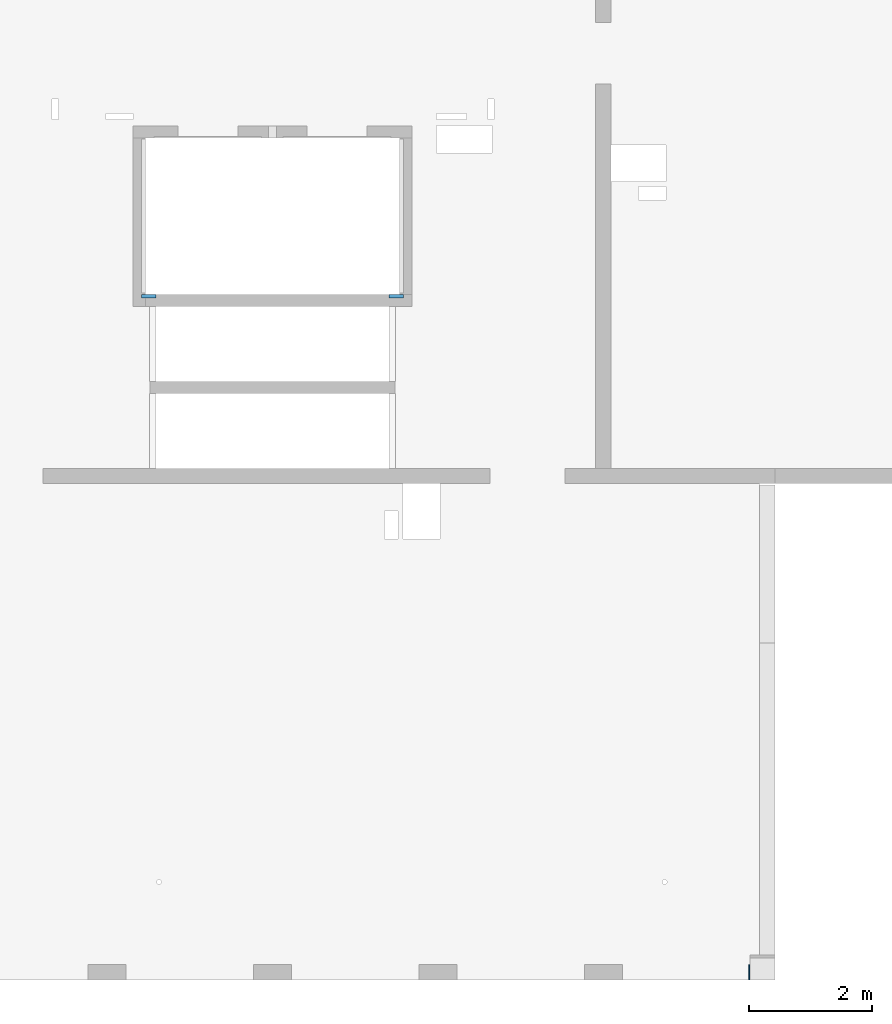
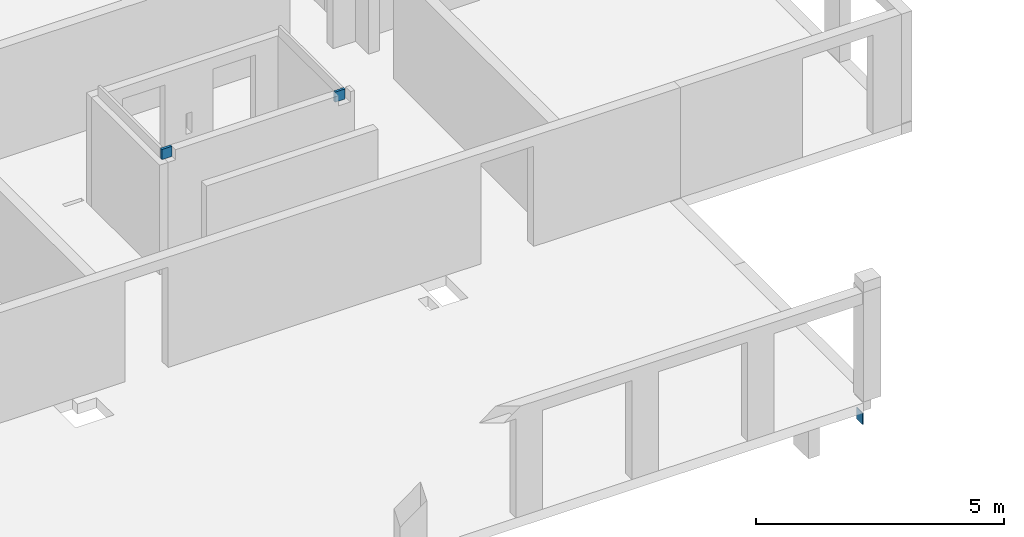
# One storey, part 9 of 12: 3 walls.
"""IFC2X3 building model written with IfcOpenShell, lengths in millimetres."""

import ifcopenshell
import ifcopenshell.guid

model = None  # the IFC model being written
_history = None  # IfcOwnerHistory: only IFC2X3 demands one
_inside = {}  # id of a spatial element -> (the spatial element, [elements in it])
_under = {}  # id of a project, library or spatial element -> (it, [spatial elements below it])
_declared = {}  # id of a project -> (the project, [libraries it declares])
_typed = {}  # id of a type object -> (the type object, [elements of that type])
_made_of = {}  # id of a material, layer set ... -> (it, [elements and type objects made of it])


def new_model(schema):
    """Start an empty IFC model of exactly this schema.

    Asked for "IFC4X3", IfcOpenShell would pick the latest addendum, in which some entities
    have other attributes; the version numbers below select the first issue.
    IFC2X3 requires an IfcOwnerHistory on every rooted entity: one is made here for all.
    """
    global model, _history
    if schema == "IFC4X3":
        model = ifcopenshell.file(schema_version=(4, 3, 0, 0))
    else:
        model = ifcopenshell.file(schema=schema)
    _inside.clear()
    _under.clear()
    _declared.clear()
    _typed.clear()
    _made_of.clear()
    _history = None
    if model.schema == "IFC2X3":
        org = make("IfcOrganization", Name="unknown")
        user = make(
            "IfcPersonAndOrganization",
            ThePerson=make("IfcPerson", FamilyName="unknown"),
            TheOrganization=org,
        )
        app = make(
            "IfcApplication",
            ApplicationDeveloper=org,
            Version="unknown",
            ApplicationFullName="unknown",
            ApplicationIdentifier="unknown",
        )
        _history = make(
            "IfcOwnerHistory",
            OwningUser=user,
            OwningApplication=app,
            ChangeAction="ADDED",
            CreationDate=0,
        )
    return model


def make(cls, **values):
    """One entity of the class cls with the attributes given. An attribute that is None is left unset."""
    return model.create_entity(
        cls, **{name: value for name, value in values.items() if value is not None}
    )


def entity(cls, *values):
    """Any entity or typed value of the class cls, its attributes in the order of the schema. None: left unset."""
    e = model.create_entity(cls)
    for i, value in enumerate(values):
        if value is not None:
            e[i] = value
    return e


def rooted(cls, **values):
    """An entity with a GlobalId (a new one), such as an element, a storey or a relation."""
    return make(cls, GlobalId=ifcopenshell.guid.new(), OwnerHistory=_history, **values)


def si_unit(unit_type, name, prefix=None):
    """IfcSIUnit, for example si_unit("LENGTHUNIT", "METRE", prefix="MILLI")."""
    return make("IfcSIUnit", UnitType=unit_type, Prefix=prefix, Name=name)


def converted_unit(unit_type, name, factor, base, dimensions=None, offset=None):
    """IfcConversionBasedUnit, such as the inch: factor (a typed value) times the base unit."""
    return make(
        "IfcConversionBasedUnit"
        if offset is None
        else "IfcConversionBasedUnitWithOffset",
        ConversionOffset=offset,
        Dimensions=None
        if dimensions is None
        else entity("IfcDimensionalExponents", *dimensions),
        UnitType=unit_type,
        Name=name,
        ConversionFactor=make(
            "IfcMeasureWithUnit", ValueComponent=factor, UnitComponent=base
        ),
    )


def derived_unit(unit_type, elements):
    """IfcDerivedUnit: a product of units, each with its exponent."""
    return make(
        "IfcDerivedUnit",
        Elements=[
            make("IfcDerivedUnitElement", Unit=unit, Exponent=power)
            for unit, power in elements
        ],
        UnitType=unit_type,
    )


def assignment(units):
    """IfcUnitAssignment: the units of a project."""
    return None if units is None else make("IfcUnitAssignment", Units=units)


def point(xyz):
    """IfcCartesianPoint."""
    return None if xyz is None else make("IfcCartesianPoint", Coordinates=xyz)


def direction(xyz):
    """IfcDirection."""
    return None if xyz is None else make("IfcDirection", DirectionRatios=xyz)


def frame(location, z_axis=None, x_axis=None):
    """IfcAxis2Placement3D, a coordinate frame: its origin and axes. An axis left out is left unset."""
    return make(
        "IfcAxis2Placement3D",
        Location=point(location),
        Axis=direction(z_axis),
        RefDirection=direction(x_axis),
    )


def frame_2d(location, x_axis=None):
    """IfcAxis2Placement2D, a coordinate frame in the plane: its origin and x axis."""
    return make(
        "IfcAxis2Placement2D", Location=point(location), RefDirection=direction(x_axis)
    )


def origin():
    """The frame at (0, 0, 0) with its axes left unset."""
    return frame((0.0, 0.0, 0.0))


def place(relative_to, where):
    """IfcLocalPlacement: puts the frame where relative to a parent placement (None: the world)."""
    return make(
        "IfcLocalPlacement", PlacementRelTo=relative_to, RelativePlacement=where
    )


def context(
    kind, dimensions, precision=None, world=None, true_north=None, identifier=None
):
    """IfcGeometricRepresentationContext, for example the 3D "Model" context."""
    return make(
        "IfcGeometricRepresentationContext",
        ContextIdentifier=identifier,
        ContextType=kind,
        CoordinateSpaceDimension=dimensions,
        Precision=precision,
        WorldCoordinateSystem=world,
        TrueNorth=true_north,
    )


def subcontext(parent, identifier, kind, view, scale=None):
    """IfcGeometricRepresentationSubContext, for example "Body" below "Model"."""
    return make(
        "IfcGeometricRepresentationSubContext",
        ContextIdentifier=identifier,
        ContextType=kind,
        ParentContext=parent,
        TargetScale=scale,
        TargetView=view,
    )


def project(units=None, contexts=None):
    """IfcProject with its units and contexts."""
    return rooted(
        "IfcProject",
        Name="project",
        RepresentationContexts=contexts,
        UnitsInContext=assignment(units),
    )


def spatial(cls, under=None, at=None, **own):
    """A site, building, storey or space (cls), placed at a placement, below another one or the project."""
    s = rooted(cls, ObjectPlacement=at, **own)
    if under is not None:
        _under.setdefault(under.id(), (under, []))[1].append(s)
    return s


def profile(cls, at=None, kind="AREA", **sizes):
    """A parametric profile (cls). Its sizes go by their IFC names, for example OverallWidth=200.0."""
    return make(cls, ProfileType=kind, Position=at, **sizes)


def rectangle(**sizes):
    """IfcRectangleProfileDef."""
    return profile("IfcRectangleProfileDef", **sizes)


def extrude(swept, where, along, depth):
    """IfcExtrudedAreaSolid: the profile swept, set in the frame where, extruded along a direction by depth."""
    return make(
        "IfcExtrudedAreaSolid",
        SweptArea=swept,
        Position=where,
        ExtrudedDirection=direction(along),
        Depth=depth,
    )


def shape(context_of_items, identifier, shape_type, items):
    """IfcShapeRepresentation: the items that make up one representation, for example the "Body"."""
    return make(
        "IfcShapeRepresentation",
        ContextOfItems=context_of_items,
        RepresentationIdentifier=identifier,
        RepresentationType=shape_type,
        Items=items,
    )


def material(Name=None, Category=None):
    """IfcMaterial."""
    return make("IfcMaterial", Name=Name, Category=Category)


def layer(
    of_material, thickness, ventilated=None, Name=None, Category=None, Priority=None
):
    """IfcMaterialLayer: one layer of a wall or slab, of a material (None: an air gap)."""
    return make(
        "IfcMaterialLayer",
        Material=of_material,
        LayerThickness=thickness,
        IsVentilated=ventilated,
        Name=Name,
        Category=Category,
        Priority=Priority,
    )


def layer_set(layers, Name=None):
    """IfcMaterialLayerSet."""
    return make("IfcMaterialLayerSet", MaterialLayers=layers, LayerSetName=Name)


def layer_usage(for_layer_set, set_direction, sense, offset, extent=None):
    """IfcMaterialLayerSetUsage: how a layer set lies in its element."""
    return make(
        "IfcMaterialLayerSetUsage",
        ForLayerSet=for_layer_set,
        LayerSetDirection=set_direction,
        DirectionSense=sense,
        OffsetFromReferenceLine=offset,
        ReferenceExtent=extent,
    )


def made_of(thing, what):
    """Note that an element or type object is made of a material, layer set ...; save() writes the relation."""
    if what is not None:
        _made_of.setdefault(what.id(), (what, []))[1].append(thing)
    return thing


def type_object(cls, material=None, **own):
    """A type object (cls), such as IfcWallType, which elements share."""
    return made_of(rooted(cls, **own), material)


def element(
    cls,
    number,
    at=None,
    inside=None,
    cuts=None,
    type_object=None,
    material=None,
    context=None,
    identifier="Body",
    shape_type=None,
    held_by="IfcProductDefinitionShape",
    body=None,
    shapes=None,
    **own,
):
    """One element of the class cls, such as IfcWall. Its Tag is "e" and its number.

    at: its placement. inside: the storey or other place that contains it. cuts: it is an
    opening in that element (IfcRelVoidsElement). A single representation is given by context,
    identifier, shape_type and body (its items); several are given by shapes. held_by: the class
    of the entity that holds the representations. save() writes the other relations.
    """
    e = rooted(cls, Tag="e%d" % number, ObjectPlacement=at, **own)
    if body is not None:
        shapes = [shape(context, identifier, shape_type, body)]
    if shapes is not None:
        e.Representation = make(held_by, Representations=shapes)
    if inside is not None:
        _inside.setdefault(inside.id(), (inside, []))[1].append(e)
    if cuts is not None:
        rooted(
            "IfcRelVoidsElement", RelatingBuildingElement=cuts, RelatedOpeningElement=e
        )
    if type_object is not None:
        _typed.setdefault(type_object.id(), (type_object, []))[1].append(e)
    return made_of(e, material)


def aggregate(whole, parts):
    """IfcRelAggregates: a whole, such as a stair, and the parts it consists of."""
    return rooted("IfcRelAggregates", RelatingObject=whole, RelatedObjects=parts)


def save(model, path):
    """Write the relations noted so far, then the file.

    IfcRelAggregates (storeys below a building ...), IfcRelContainedInSpatialStructure (elements
    in a storey), IfcRelDefinesByType, IfcRelAssociatesMaterial and IfcRelDeclares: one each for
    every whole, place, type object, material and project.
    """
    for whole, parts in _under.values():
        aggregate(whole, parts)
    for where, things in _inside.values():
        rooted(
            "IfcRelContainedInSpatialStructure",
            RelatedElements=things,
            RelatingStructure=where,
        )
    for kind, things in _typed.values():
        rooted("IfcRelDefinesByType", RelatedObjects=things, RelatingType=kind)
    for what, things in _made_of.values():
        rooted("IfcRelAssociatesMaterial", RelatedObjects=things, RelatingMaterial=what)
    for by, libraries in _declared.values():
        rooted("IfcRelDeclares", RelatingContext=by, RelatedDefinitions=libraries)
    model.write(path)


model = new_model("IFC2X3")

# Units and contexts
model_context = context("Model", 3, precision=0.01, world=origin(), true_north=direction((6.12303176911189e-17, 1.0)))
body_context = subcontext(model_context, "Body", "Model", "MODEL_VIEW")
ifc_project = project(units=[si_unit("LENGTHUNIT", "METRE", prefix="MILLI"), si_unit("AREAUNIT", "SQUARE_METRE"), si_unit("VOLUMEUNIT", "CUBIC_METRE"), converted_unit("PLANEANGLEUNIT", "DEGREE", entity("IfcRatioMeasure", 0.0174532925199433), si_unit("PLANEANGLEUNIT", "RADIAN"), dimensions=[0, 0, 0, 0, 0, 0, 0]), si_unit("MASSUNIT", "GRAM", prefix="KILO"), derived_unit("MASSDENSITYUNIT", [(si_unit("MASSUNIT", "GRAM", prefix="KILO"), 1), (si_unit("LENGTHUNIT", "METRE"), -3)]), si_unit("TIMEUNIT", "SECOND"), si_unit("FREQUENCYUNIT", "HERTZ"), si_unit("THERMODYNAMICTEMPERATUREUNIT", "DEGREE_CELSIUS"), derived_unit("THERMALTRANSMITTANCEUNIT", [(si_unit("MASSUNIT", "GRAM", prefix="KILO"), 1), (si_unit("THERMODYNAMICTEMPERATUREUNIT", "KELVIN"), -1), (si_unit("TIMEUNIT", "SECOND"), -3)]), derived_unit("VOLUMETRICFLOWRATEUNIT", [(si_unit("LENGTHUNIT", "METRE"), 3), (si_unit("TIMEUNIT", "SECOND"), -1)]), si_unit("ELECTRICCURRENTUNIT", "AMPERE"), si_unit("ELECTRICVOLTAGEUNIT", "VOLT"), si_unit("POWERUNIT", "WATT"), si_unit("FORCEUNIT", "NEWTON", prefix="KILO"), si_unit("ILLUMINANCEUNIT", "LUX"), si_unit("LUMINOUSFLUXUNIT", "LUMEN"), si_unit("LUMINOUSINTENSITYUNIT", "CANDELA"), derived_unit("USERDEFINED", [(si_unit("MASSUNIT", "GRAM", prefix="KILO"), -1), (si_unit("LENGTHUNIT", "METRE"), -2), (si_unit("TIMEUNIT", "SECOND"), 3), (si_unit("LUMINOUSFLUXUNIT", "LUMEN"), 1)]), derived_unit("LINEARVELOCITYUNIT", [(si_unit("LENGTHUNIT", "METRE"), 1), (si_unit("TIMEUNIT", "SECOND"), -1)]), si_unit("PRESSUREUNIT", "PASCAL"), derived_unit("USERDEFINED", [(si_unit("LENGTHUNIT", "METRE"), -2), (si_unit("MASSUNIT", "GRAM", prefix="KILO"), 1), (si_unit("TIMEUNIT", "SECOND"), -2)])], contexts=[model_context])

# Site, building, storey
site_placement = place(None, origin())
site = spatial("IfcSite", under=ifc_project, at=site_placement, Name="Default", CompositionType="ELEMENT")
building_placement = place(site_placement, origin())
building = spatial("IfcBuilding", under=site, at=building_placement, Name="niet gebruiken", CompositionType="ELEMENT")
storey_placement = place(building_placement, frame((0.0, 0.0, 30420.0)))
storey = spatial("IfcBuildingStorey", under=building, at=storey_placement, Name="10 tiende verdieping", CompositionType="ELEMENT", Elevation=30420.0)

# Walls
ifc_material_1 = material(Name="NLRS_f2_beton ihwg")
ifc_layer_1 = layer(ifc_material_1, 250.0)
ifc_layer_set_1 = layer_set([ifc_layer_1], Name="Basic Wall:NLRS_21.21_WA_beton ihwg d=250_gen")
ifc_layer_usage_1 = layer_usage(ifc_layer_set_1, "AXIS2", "NEGATIVE", 125.0)
wall_type_1 = type_object("IfcWallType", Name="Basic Wall:NLRS_21.21_WA_beton ihwg d=250_gen", PredefinedType="STANDARD", material=ifc_layer_set_1)
wall_1_placement = place(storey_placement, frame((50970.0, 28881.0, -620.0)))
element("IfcWallStandardCase", 1, at=wall_1_placement, inside=storey, type_object=wall_type_1, material=ifc_layer_usage_1, Name="Basic Wall:NLRS_21.21_WA_beton ihwg d=250_gen", ObjectType="Basic Wall:NLRS_21.21_WA_beton ihwg d=250_gen", context=body_context, shape_type="SweptSolid", body=[
    extrude(rectangle(XDim=19.999999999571, YDim=250.000000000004, at=frame_2d((9.99999999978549, 1.63424829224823e-13), x_axis=(-1.0, 0.0))), origin(), (0.0, 0.0, 1.0), 280.000000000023),
])
ifc_material_2 = material(Name="NLRS_f2_beton prefab")
ifc_layer_2 = layer(ifc_material_2, 60.0)
ifc_layer_set_2 = layer_set([ifc_layer_2], Name="Basic Wall:NLRS_22.21_WA_beton prefab d=60_gen")
ifc_layer_usage_2 = layer_usage(ifc_layer_set_2, "AXIS2", "NEGATIVE", 30.0)
wall_type_2 = type_object("IfcWallType", Name="Basic Wall:NLRS_22.21_WA_beton prefab d=60_gen", PredefinedType="STANDARD", material=ifc_layer_set_2)
wall_2_placement = place(storey_placement, frame((41065.02321398, 39916.0, 2630.0)))
element("IfcWallStandardCase", 2, at=wall_2_placement, inside=storey, type_object=wall_type_2, material=ifc_layer_usage_2, Name="Basic Wall:NLRS_22.21_WA_beton prefab d=60_gen", ObjectType="Basic Wall:NLRS_22.21_WA_beton prefab d=60_gen", context=body_context, shape_type="SweptSolid", body=[
    extrude(rectangle(XDim=234.976753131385, YDim=60.0000000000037, at=frame_2d((117.488376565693, -4.12292422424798e-12), x_axis=(-1.0, 0.0))), origin(), (0.0, 0.0, 1.0), 250.000000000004),
])
ifc_layer_usage_3 = layer_usage(ifc_layer_set_2, "AXIS2", "POSITIVE", -30.0)
wall_3_placement = place(storey_placement, frame((45334.9767860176, 39916.0, 2630.0), z_axis=(0.0, 0.0, 1.0), x_axis=(-1.0, 0.0, 0.0)))
element("IfcWallStandardCase", 3, at=wall_3_placement, inside=storey, type_object=wall_type_2, material=ifc_layer_usage_3, Name="Basic Wall:NLRS_22.21_WA_beton prefab d=60_gen", ObjectType="Basic Wall:NLRS_22.21_WA_beton prefab d=60_gen", context=body_context, shape_type="SweptSolid", body=[
    extrude(rectangle(XDim=234.976753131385, YDim=60.0000000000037, at=frame_2d((117.488376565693, 4.12114786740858e-12), x_axis=(-1.0, 0.0))), origin(), (0.0, 0.0, 1.0), 250.000000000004),
])

save(model, "model.ifc")
